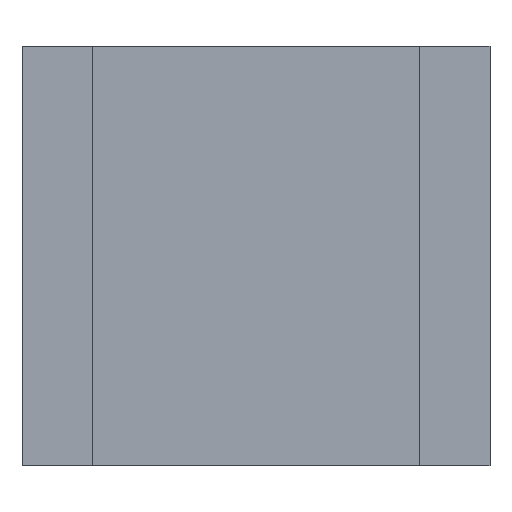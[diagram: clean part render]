
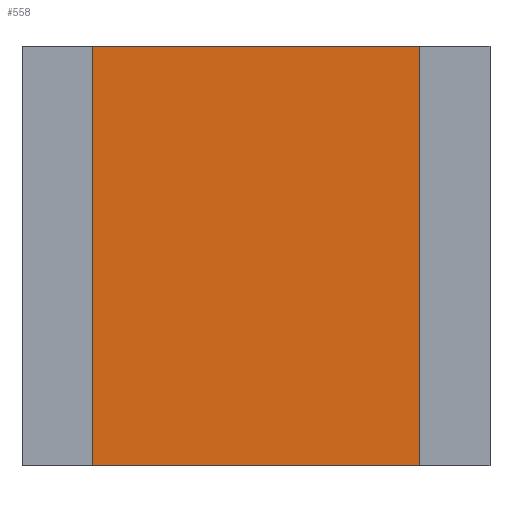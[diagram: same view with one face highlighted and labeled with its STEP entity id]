
A CAD part, front view. The second image highlights one B-rep face of the part: STEP entity #558.
In plain terms, the highlighted planar face has unit normal (0, -1, 0).
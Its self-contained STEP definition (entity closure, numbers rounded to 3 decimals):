
#4 = DIRECTION ( 'NONE',  ( 0., 0., -1. ) ) ;
#8 = VERTEX_POINT ( 'NONE', #681 ) ;
#19 = ORIENTED_EDGE ( 'NONE', *, *, #682, .T. ) ;
#20 = FACE_OUTER_BOUND ( 'NONE', #390, .T. ) ;
#34 = EDGE_CURVE ( 'NONE', #604, #648, #213, .T. ) ;
#117 = VECTOR ( 'NONE', #455, 1000. ) ;
#139 = AXIS2_PLACEMENT_3D ( 'NONE', #601, #655, #546 ) ;
#141 = CARTESIAN_POINT ( 'NONE',  ( -21., -1.9, 53.8 ) ) ;
#157 = DIRECTION ( 'NONE',  ( 1., 0., 0. ) ) ;
#182 = CARTESIAN_POINT ( 'NONE',  ( 21., -1.9, 0. ) ) ;
#213 = LINE ( 'NONE', #625, #350 ) ;
#215 = CARTESIAN_POINT ( 'NONE',  ( 21., -1.9, 53.8 ) ) ;
#230 = PLANE ( 'NONE',  #139 ) ;
#246 = LINE ( 'NONE', #348, #117 ) ;
#272 = EDGE_CURVE ( 'NONE', #642, #8, #246, .T. ) ;
#302 = DIRECTION ( 'NONE',  ( 0., 0., -1. ) ) ;
#330 = CARTESIAN_POINT ( 'NONE',  ( -21., -1.9, 53.8 ) ) ;
#340 = CARTESIAN_POINT ( 'NONE',  ( -21., -1.9, 0. ) ) ;
#348 = CARTESIAN_POINT ( 'NONE',  ( 0., -1.9, 53.8 ) ) ;
#350 = VECTOR ( 'NONE', #157, 1000. ) ;
#377 = ORIENTED_EDGE ( 'NONE', *, *, #449, .F. ) ;
#390 = EDGE_LOOP ( 'NONE', ( #617, #377, #564, #19 ) ) ;
#449 = EDGE_CURVE ( 'NONE', #8, #648, #589, .T. ) ;
#455 = DIRECTION ( 'NONE',  ( 1., 0., 0. ) ) ;
#467 = VECTOR ( 'NONE', #302, 1000. ) ;
#546 = DIRECTION ( 'NONE',  ( -1., 0., 0. ) ) ;
#554 = LINE ( 'NONE', #141, #467 ) ;
#558 = ADVANCED_FACE ( 'NONE', ( #20 ), #230, .F. ) ;
#564 = ORIENTED_EDGE ( 'NONE', *, *, #272, .F. ) ;
#589 = LINE ( 'NONE', #215, #615 ) ;
#601 = CARTESIAN_POINT ( 'NONE',  ( 0., -1.9, 53.8 ) ) ;
#604 = VERTEX_POINT ( 'NONE', #340 ) ;
#615 = VECTOR ( 'NONE', #4, 1000. ) ;
#617 = ORIENTED_EDGE ( 'NONE', *, *, #34, .T. ) ;
#625 = CARTESIAN_POINT ( 'NONE',  ( 0., -1.9, 0. ) ) ;
#642 = VERTEX_POINT ( 'NONE', #330 ) ;
#648 = VERTEX_POINT ( 'NONE', #182 ) ;
#655 = DIRECTION ( 'NONE',  ( 0., 1., 0. ) ) ;
#681 = CARTESIAN_POINT ( 'NONE',  ( 21., -1.9, 53.8 ) ) ;
#682 = EDGE_CURVE ( 'NONE', #642, #604, #554, .T. ) ;
